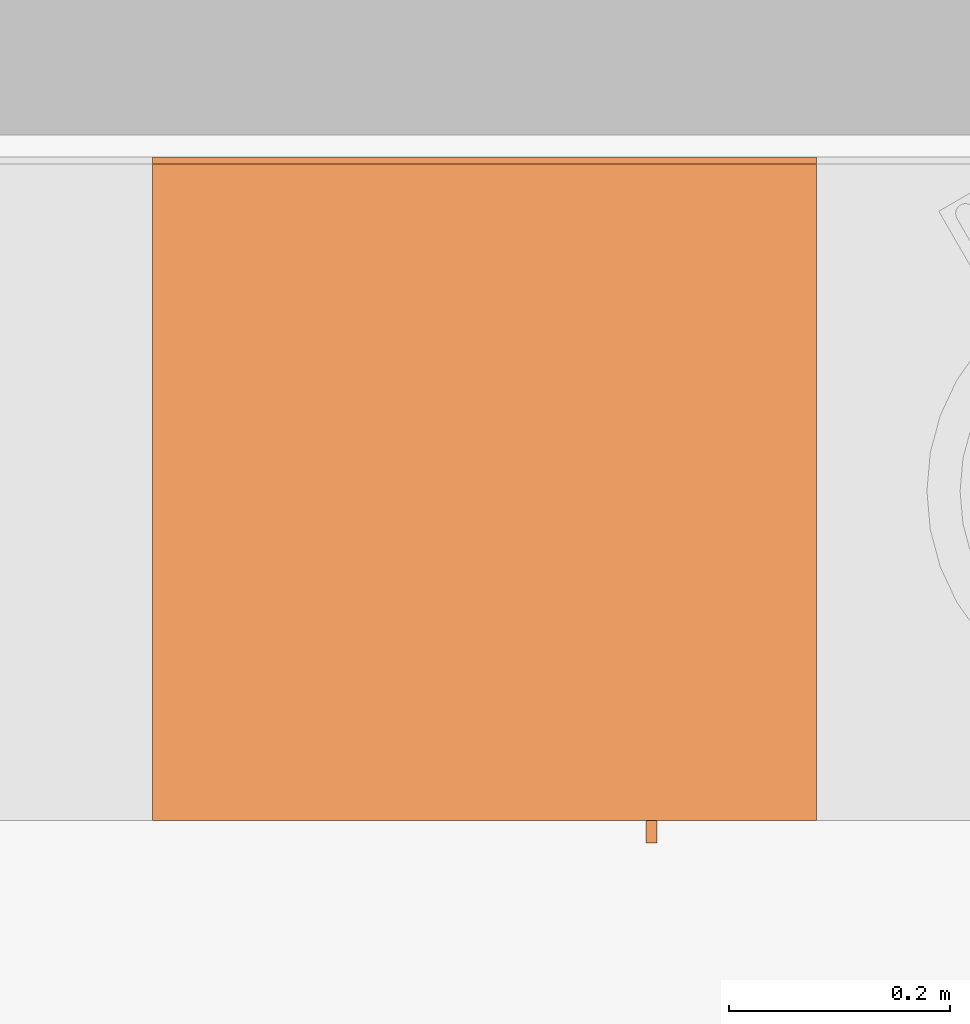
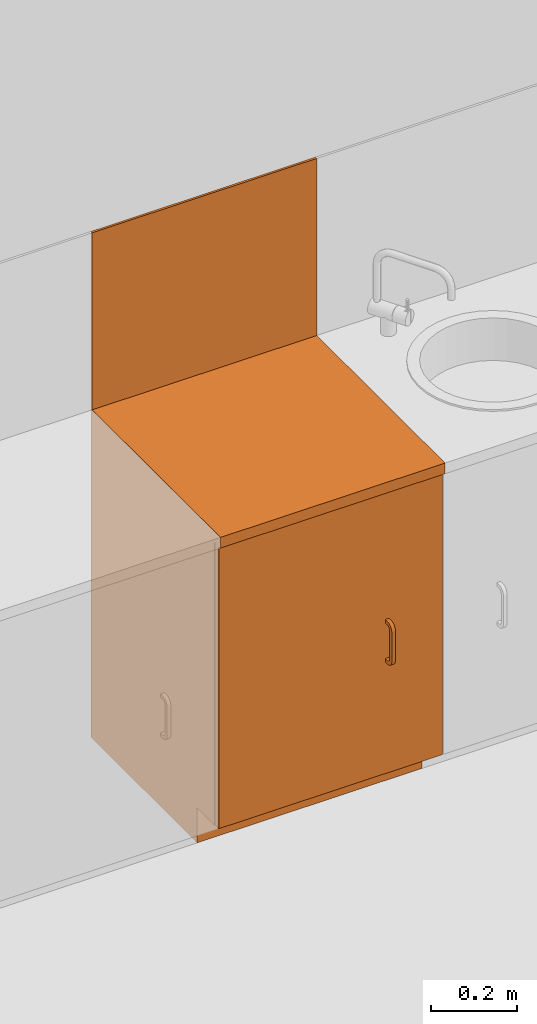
# One storey, part 344 of 347: 1 proxy.
"""IFC2X3 building model written with IfcOpenShell, lengths in millimetres."""

import ifcopenshell
import ifcopenshell.guid

model = None  # the IFC model being written
_history = None  # IfcOwnerHistory: only IFC2X3 demands one
_inside = {}  # id of a spatial element -> (the spatial element, [elements in it])
_under = {}  # id of a project, library or spatial element -> (it, [spatial elements below it])
_declared = {}  # id of a project -> (the project, [libraries it declares])
_typed = {}  # id of a type object -> (the type object, [elements of that type])
_made_of = {}  # id of a material, layer set ... -> (it, [elements and type objects made of it])


def new_model(schema):
    """Start an empty IFC model of exactly this schema.

    Asked for "IFC4X3", IfcOpenShell would pick the latest addendum, in which some entities
    have other attributes; the version numbers below select the first issue.
    IFC2X3 requires an IfcOwnerHistory on every rooted entity: one is made here for all.
    """
    global model, _history
    if schema == "IFC4X3":
        model = ifcopenshell.file(schema_version=(4, 3, 0, 0))
    else:
        model = ifcopenshell.file(schema=schema)
    _inside.clear()
    _under.clear()
    _declared.clear()
    _typed.clear()
    _made_of.clear()
    _history = None
    if model.schema == "IFC2X3":
        org = make("IfcOrganization", Name="unknown")
        user = make(
            "IfcPersonAndOrganization",
            ThePerson=make("IfcPerson", FamilyName="unknown"),
            TheOrganization=org,
        )
        app = make(
            "IfcApplication",
            ApplicationDeveloper=org,
            Version="unknown",
            ApplicationFullName="unknown",
            ApplicationIdentifier="unknown",
        )
        _history = make(
            "IfcOwnerHistory",
            OwningUser=user,
            OwningApplication=app,
            ChangeAction="ADDED",
            CreationDate=0,
        )
    return model


def make(cls, **values):
    """One entity of the class cls with the attributes given. An attribute that is None is left unset."""
    return model.create_entity(
        cls, **{name: value for name, value in values.items() if value is not None}
    )


def entity(cls, *values):
    """Any entity or typed value of the class cls, its attributes in the order of the schema. None: left unset."""
    e = model.create_entity(cls)
    for i, value in enumerate(values):
        if value is not None:
            e[i] = value
    return e


def rooted(cls, **values):
    """An entity with a GlobalId (a new one), such as an element, a storey or a relation."""
    return make(cls, GlobalId=ifcopenshell.guid.new(), OwnerHistory=_history, **values)


def si_unit(unit_type, name, prefix=None):
    """IfcSIUnit, for example si_unit("LENGTHUNIT", "METRE", prefix="MILLI")."""
    return make("IfcSIUnit", UnitType=unit_type, Prefix=prefix, Name=name)


def converted_unit(unit_type, name, factor, base, dimensions=None, offset=None):
    """IfcConversionBasedUnit, such as the inch: factor (a typed value) times the base unit."""
    return make(
        "IfcConversionBasedUnit"
        if offset is None
        else "IfcConversionBasedUnitWithOffset",
        ConversionOffset=offset,
        Dimensions=None
        if dimensions is None
        else entity("IfcDimensionalExponents", *dimensions),
        UnitType=unit_type,
        Name=name,
        ConversionFactor=make(
            "IfcMeasureWithUnit", ValueComponent=factor, UnitComponent=base
        ),
    )


def derived_unit(unit_type, elements):
    """IfcDerivedUnit: a product of units, each with its exponent."""
    return make(
        "IfcDerivedUnit",
        Elements=[
            make("IfcDerivedUnitElement", Unit=unit, Exponent=power)
            for unit, power in elements
        ],
        UnitType=unit_type,
    )


def money_unit(currency):
    """IfcMonetaryUnit."""
    return make("IfcMonetaryUnit", Currency=currency)


def assignment(units):
    """IfcUnitAssignment: the units of a project."""
    return None if units is None else make("IfcUnitAssignment", Units=units)


def point(xyz):
    """IfcCartesianPoint."""
    return None if xyz is None else make("IfcCartesianPoint", Coordinates=xyz)


def direction(xyz):
    """IfcDirection."""
    return None if xyz is None else make("IfcDirection", DirectionRatios=xyz)


def frame(location, z_axis=None, x_axis=None):
    """IfcAxis2Placement3D, a coordinate frame: its origin and axes. An axis left out is left unset."""
    return make(
        "IfcAxis2Placement3D",
        Location=point(location),
        Axis=direction(z_axis),
        RefDirection=direction(x_axis),
    )


def origin_with_axes():
    """The frame at (0, 0, 0) with the z axis (0, 0, 1) and the x axis (1, 0, 0) written out."""
    return frame((0.0, 0.0, 0.0), z_axis=(0.0, 0.0, 1.0), x_axis=(1.0, 0.0, 0.0))


def place(relative_to, where):
    """IfcLocalPlacement: puts the frame where relative to a parent placement (None: the world)."""
    return make(
        "IfcLocalPlacement", PlacementRelTo=relative_to, RelativePlacement=where
    )


def context(
    kind, dimensions, precision=None, world=None, true_north=None, identifier=None
):
    """IfcGeometricRepresentationContext, for example the 3D "Model" context."""
    return make(
        "IfcGeometricRepresentationContext",
        ContextIdentifier=identifier,
        ContextType=kind,
        CoordinateSpaceDimension=dimensions,
        Precision=precision,
        WorldCoordinateSystem=world,
        TrueNorth=true_north,
    )


def subcontext(parent, identifier, kind, view, scale=None):
    """IfcGeometricRepresentationSubContext, for example "Body" below "Model"."""
    return make(
        "IfcGeometricRepresentationSubContext",
        ContextIdentifier=identifier,
        ContextType=kind,
        ParentContext=parent,
        TargetScale=scale,
        TargetView=view,
    )


def project(units=None, contexts=None):
    """IfcProject with its units and contexts."""
    return rooted(
        "IfcProject",
        Name="project",
        RepresentationContexts=contexts,
        UnitsInContext=assignment(units),
    )


def spatial(cls, under=None, at=None, **own):
    """A site, building, storey or space (cls), placed at a placement, below another one or the project."""
    s = rooted(cls, ObjectPlacement=at, **own)
    if under is not None:
        _under.setdefault(under.id(), (under, []))[1].append(s)
    return s


def faces_of(points, faces, orient=None, outer=None):
    """IfcFace entities. A face is a list of loops; a loop is a list of indices into points, from 0.

    orient and outer hold one flag for each loop. By default every Orientation is true, the
    first loop of a face is its IfcFaceOuterBound and the others are IfcFaceBound.
    """
    made = []
    for i, loops in enumerate(faces):
        bounds = []
        for j, loop in enumerate(loops):
            is_outer = j == 0 if outer is None else outer[i][j]
            bounds.append(
                make(
                    "IfcFaceOuterBound" if is_outer else "IfcFaceBound",
                    Bound=make("IfcPolyLoop", Polygon=[points[k] for k in loop]),
                    Orientation=True if orient is None else orient[i][j],
                )
            )
        made.append(make("IfcFace", Bounds=bounds))
    return made


def faceted_brep(points, faces, orient=None, outer=None, voids=None):
    """IfcFacetedBrep: a solid bounded by flat faces; with voids (closed shells), ...WithVoids."""
    shared = [point(p) for p in points]
    hull = make("IfcClosedShell", CfsFaces=faces_of(shared, faces, orient, outer))
    if voids is None:
        return make("IfcFacetedBrep", Outer=hull)
    return make(
        "IfcFacetedBrepWithVoids",
        Outer=hull,
        Voids=[
            make(cls, CfsFaces=faces_of(shared, fs, o, b)) for cls, fs, o, b in voids
        ],
    )


def shape(context_of_items, identifier, shape_type, items):
    """IfcShapeRepresentation: the items that make up one representation, for example the "Body"."""
    return make(
        "IfcShapeRepresentation",
        ContextOfItems=context_of_items,
        RepresentationIdentifier=identifier,
        RepresentationType=shape_type,
        Items=items,
    )


def made_of(thing, what):
    """Note that an element or type object is made of a material, layer set ...; save() writes the relation."""
    if what is not None:
        _made_of.setdefault(what.id(), (what, []))[1].append(thing)
    return thing


def type_object(cls, material=None, **own):
    """A type object (cls), such as IfcWallType, which elements share."""
    return made_of(rooted(cls, **own), material)


def element(
    cls,
    number,
    at=None,
    inside=None,
    cuts=None,
    type_object=None,
    material=None,
    context=None,
    identifier="Body",
    shape_type=None,
    held_by="IfcProductDefinitionShape",
    body=None,
    shapes=None,
    **own,
):
    """One element of the class cls, such as IfcWall. Its Tag is "e" and its number.

    at: its placement. inside: the storey or other place that contains it. cuts: it is an
    opening in that element (IfcRelVoidsElement). A single representation is given by context,
    identifier, shape_type and body (its items); several are given by shapes. held_by: the class
    of the entity that holds the representations. save() writes the other relations.
    """
    e = rooted(cls, Tag="e%d" % number, ObjectPlacement=at, **own)
    if body is not None:
        shapes = [shape(context, identifier, shape_type, body)]
    if shapes is not None:
        e.Representation = make(held_by, Representations=shapes)
    if inside is not None:
        _inside.setdefault(inside.id(), (inside, []))[1].append(e)
    if cuts is not None:
        rooted(
            "IfcRelVoidsElement", RelatingBuildingElement=cuts, RelatedOpeningElement=e
        )
    if type_object is not None:
        _typed.setdefault(type_object.id(), (type_object, []))[1].append(e)
    return made_of(e, material)


def aggregate(whole, parts):
    """IfcRelAggregates: a whole, such as a stair, and the parts it consists of."""
    return rooted("IfcRelAggregates", RelatingObject=whole, RelatedObjects=parts)


def save(model, path):
    """Write the relations noted so far, then the file.

    IfcRelAggregates (storeys below a building ...), IfcRelContainedInSpatialStructure (elements
    in a storey), IfcRelDefinesByType, IfcRelAssociatesMaterial and IfcRelDeclares: one each for
    every whole, place, type object, material and project.
    """
    for whole, parts in _under.values():
        aggregate(whole, parts)
    for where, things in _inside.values():
        rooted(
            "IfcRelContainedInSpatialStructure",
            RelatedElements=things,
            RelatingStructure=where,
        )
    for kind, things in _typed.values():
        rooted("IfcRelDefinesByType", RelatedObjects=things, RelatingType=kind)
    for what, things in _made_of.values():
        rooted("IfcRelAssociatesMaterial", RelatedObjects=things, RelatingMaterial=what)
    for by, libraries in _declared.values():
        rooted("IfcRelDeclares", RelatingContext=by, RelatedDefinitions=libraries)
    model.write(path)


model = new_model("IFC2X3")

# Units and contexts
model_context = context("Model", 3, precision=0.01, world=origin_with_axes(), true_north=direction((0.0, 1.0)))
plan_context = context("Plan", 3, precision=0.01, world=origin_with_axes(), true_north=direction((0.0, 1.0)))
body_context = subcontext(model_context, "Body", "Model", "MODEL_VIEW")
ifc_project = project(units=[si_unit("LENGTHUNIT", "METRE", prefix="MILLI"), si_unit("AREAUNIT", "SQUARE_METRE"), si_unit("VOLUMEUNIT", "CUBIC_METRE"), converted_unit("PLANEANGLEUNIT", "DEGREE", entity("IfcPlaneAngleMeasure", 0.0174532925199), si_unit("PLANEANGLEUNIT", "RADIAN"), dimensions=[0, 0, 0, 0, 0, 0, 0]), money_unit("EUR"), converted_unit("TIMEUNIT", "Year", entity("IfcTimeMeasure", 31556926.0), si_unit("TIMEUNIT", "SECOND"), dimensions=[0, 0, 1, 0, 0, 0, 0]), si_unit("MASSUNIT", "GRAM", prefix="KILO"), si_unit("THERMODYNAMICTEMPERATUREUNIT", "DEGREE_CELSIUS"), si_unit("LUMINOUSINTENSITYUNIT", "LUMEN"), si_unit("ENERGYUNIT", "JOULE", prefix="MEGA"), derived_unit("THERMALCONDUCTANCEUNIT", [(si_unit("POWERUNIT", "WATT"), 1), (si_unit("LENGTHUNIT", "METRE"), -1), (si_unit("THERMODYNAMICTEMPERATUREUNIT", "KELVIN"), -1)]), derived_unit("SPECIFICHEATCAPACITYUNIT", [(si_unit("ENERGYUNIT", "JOULE"), 1), (si_unit("MASSUNIT", "GRAM", prefix="KILO"), -1), (si_unit("THERMODYNAMICTEMPERATUREUNIT", "KELVIN"), -1)]), derived_unit("MASSDENSITYUNIT", [(si_unit("MASSUNIT", "GRAM", prefix="KILO"), 1), (si_unit("VOLUMEUNIT", "CUBIC_METRE"), -1)])], contexts=[model_context, plan_context])

# Site, building, storey
site_placement = place(None, origin_with_axes())
site = spatial("IfcSite", under=ifc_project, at=site_placement, Name="Site", CompositionType="ELEMENT")
building_placement = place(site_placement, origin_with_axes())
building = spatial("IfcBuilding", under=site, at=building_placement, Name="Naam gebouw", CompositionType="ELEMENT")
storey_placement = place(building_placement, origin_with_axes())
storey = spatial("IfcBuildingStorey", under=building, at=storey_placement, Name="begane grond", CompositionType="ELEMENT", Elevation=0.0)

# Proxy
building_element_proxy_type = type_object("IfcBuildingElementProxyType", Name="Onderkast recht 25", PredefinedType="NOTDEFINED")
proxy_placement = place(storey_placement, frame((26375.0, 19967.5, 0.0), z_axis=(0.0, 0.0, 1.0), x_axis=(1.0, 0.0, 0.0)))
element("IfcBuildingElementProxy", 1, at=proxy_placement, inside=storey, type_object=building_element_proxy_type, Name="_73 pantryblok", context=body_context, shape_type="Brep", body=[
    faceted_brep([(600.0, -492.0, 2.0), (600.0, 0.0, 2.0), (600.0, 0.0, 100.0), (600.0, -492.0, 100.0), (0.0, 0.0, 2.0), (0.0, -492.0, 2.0), (0.0, 0.0, 100.0), (0.0, -492.0, 100.0)], [[[0, 1, 2, 3]], [[4, 1, 0, 5]], [[1, 4, 6, 2]], [[6, 7, 3, 2]], [[5, 0, 3, 7]], [[4, 5, 7, 6]]]),
    faceted_brep([(0.0, -600.0, 900.0), (600.0, -600.0, 900.0), (600.0, -600.0, 930.0), (0.0, -600.0, 930.0), (0.0, 0.0, 900.0), (600.0, 0.0, 900.0), (600.0, 0.0, 930.0), (0.0, 0.0, 930.0)], [[[0, 1, 2, 3]], [[0, 4, 5, 1]], [[1, 5, 6, 2]], [[3, 2, 6, 7]], [[4, 0, 3, 7]], [[5, 4, 7, 6]]]),
    faceted_brep([(600.0, 0.0, 930.0), (600.0, -6.0, 930.0), (0.0, -6.0, 930.0), (0.0, 0.0, 930.0), (600.0, 0.0, 1430.0), (600.0, -6.0, 1430.0), (0.0, -6.0, 1430.0), (0.0, 0.0, 1430.0)], [[[0, 1, 2, 3]], [[0, 4, 5, 1]], [[1, 5, 6, 2]], [[3, 2, 6, 7]], [[4, 0, 3, 7]], [[5, 4, 7, 6]]]),
    faceted_brep([(446.0, -590.0, 416.0), (446.0, -590.0, 426.0), (456.0, -590.0, 426.0), (456.0, -590.0, 416.0), (446.0, -600.0, 416.0), (446.0, -603.472963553, 416.30384494), (446.0, -606.840402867, 417.206147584), (446.0, -610.0, 418.679491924), (446.0, -612.855752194, 420.679111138), (446.0, -615.320888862, 423.144247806), (446.0, -617.320508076, 426.0), (446.0, -618.793852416, 429.159597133), (446.0, -619.69615506, 432.527036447), (446.0, -620.0, 436.0), (446.0, -620.0, 516.0), (446.0, -619.69615506, 519.472963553), (446.0, -618.793852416, 522.840402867), (446.0, -617.320508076, 526.0), (446.0, -615.320888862, 528.855752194), (446.0, -612.855752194, 531.320888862), (446.0, -610.0, 533.320508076), (446.0, -606.840402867, 534.793852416), (446.0, -603.472963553, 535.69615506), (446.0, -600.0, 536.0), (446.0, -590.0, 536.0), (446.0, -590.0, 526.0), (446.0, -600.0, 526.0), (446.0, -601.736481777, 525.84807753), (446.0, -603.420201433, 525.396926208), (446.0, -605.0, 524.660254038), (446.0, -606.427876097, 523.660444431), (446.0, -607.660444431, 522.427876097), (446.0, -608.660254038, 521.0), (446.0, -609.396926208, 519.420201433), (446.0, -609.84807753, 517.736481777), (446.0, -610.0, 516.0), (446.0, -610.0, 436.0), (446.0, -609.84807753, 434.263518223), (446.0, -609.396926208, 432.579798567), (446.0, -608.660254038, 431.0), (446.0, -607.660444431, 429.572123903), (446.0, -606.427876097, 428.339555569), (446.0, -605.0, 427.339745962), (446.0, -603.420201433, 426.603073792), (446.0, -601.736481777, 426.15192247), (446.0, -600.0, 426.0), (456.0, -600.0, 426.0), (456.0, -601.736481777, 426.15192247), (456.0, -603.420201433, 426.603073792), (456.0, -605.0, 427.339745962), (456.0, -606.427876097, 428.339555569), (456.0, -607.660444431, 429.572123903), (456.0, -608.660254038, 431.0), (456.0, -609.396926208, 432.579798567), (456.0, -609.84807753, 434.263518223), (456.0, -610.0, 436.0), (456.0, -610.0, 516.0), (456.0, -609.84807753, 517.736481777), (456.0, -609.396926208, 519.420201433), (456.0, -608.660254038, 521.0), (456.0, -607.660444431, 522.427876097), (456.0, -606.427876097, 523.660444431), (456.0, -605.0, 524.660254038), (456.0, -603.420201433, 525.396926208), (456.0, -601.736481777, 525.84807753), (456.0, -600.0, 526.0), (456.0, -590.0, 526.0), (456.0, -590.0, 536.0), (456.0, -600.0, 536.0), (456.0, -603.472963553, 535.69615506), (456.0, -606.840402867, 534.793852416), (456.0, -610.0, 533.320508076), (456.0, -612.855752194, 531.320888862), (456.0, -615.320888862, 528.855752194), (456.0, -617.320508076, 526.0), (456.0, -618.793852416, 522.840402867), (456.0, -619.69615506, 519.472963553), (456.0, -620.0, 516.0), (456.0, -620.0, 436.0), (456.0, -619.69615506, 432.527036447), (456.0, -618.793852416, 429.159597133), (456.0, -617.320508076, 426.0), (456.0, -615.320888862, 423.144247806), (456.0, -612.855752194, 420.679111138), (456.0, -610.0, 418.679491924), (456.0, -606.840402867, 417.206147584), (456.0, -603.472963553, 416.30384494), (456.0, -600.0, 416.0)], [[[0, 1, 2, 3]], [[0, 4, 5, 6, 7, 8, 9, 10, 11, 12, 13, 14, 15, 16, 17, 18, 19, 20, 21, 22, 23, 24, 25, 26, 27, 28, 29, 30, 31, 32, 33, 34, 35, 36, 37, 38, 39, 40, 41, 42, 43, 44, 45, 1]], [[1, 45, 46, 2]], [[3, 2, 46, 47, 48, 49, 50, 51, 52, 53, 54, 55, 56, 57, 58, 59, 60, 61, 62, 63, 64, 65, 66, 67, 68, 69, 70, 71, 72, 73, 74, 75, 76, 77, 78, 79, 80, 81, 82, 83, 84, 85, 86, 87]], [[4, 0, 3, 87]], [[5, 4, 87, 86]], [[6, 5, 86, 85]], [[7, 6, 85, 84]], [[8, 7, 84, 83]], [[9, 8, 83, 82]], [[10, 9, 82, 81]], [[11, 10, 81, 80]], [[12, 11, 80, 79]], [[13, 12, 79, 78]], [[14, 13, 78, 77]], [[15, 14, 77, 76]], [[16, 15, 76, 75]], [[17, 16, 75, 74]], [[18, 17, 74, 73]], [[19, 18, 73, 72]], [[20, 19, 72, 71]], [[21, 20, 71, 70]], [[22, 21, 70, 69]], [[23, 22, 69, 68]], [[24, 23, 68, 67]], [[25, 24, 67, 66]], [[26, 25, 66, 65]], [[27, 26, 65, 64]], [[28, 27, 64, 63]], [[29, 28, 63, 62]], [[30, 29, 62, 61]], [[31, 30, 61, 60]], [[32, 31, 60, 59]], [[33, 32, 59, 58]], [[34, 33, 58, 57]], [[35, 34, 57, 56]], [[36, 35, 56, 55]], [[37, 36, 55, 54]], [[38, 37, 54, 53]], [[39, 38, 53, 52]], [[40, 39, 52, 51]], [[41, 40, 51, 50]], [[42, 41, 50, 49]], [[43, 42, 49, 48]], [[44, 43, 48, 47]], [[45, 44, 47, 46]]]),
    faceted_brep([(1.0, -572.0, 101.0), (599.0, -572.0, 101.0), (599.0, -590.0, 101.0), (1.0, -590.0, 101.0), (1.0, -572.0, 899.0), (599.0, -572.0, 899.0), (599.0, -590.0, 899.0), (1.0, -590.0, 899.0)], [[[0, 1, 2, 3]], [[0, 4, 5, 1]], [[1, 5, 6, 2]], [[3, 2, 6, 7]], [[4, 0, 3, 7]], [[5, 4, 7, 6]]]),
    faceted_brep([(18.0, -572.0, 100.0), (582.0, -572.0, 100.0), (582.0, -572.0, 118.0), (18.0, -572.0, 118.0), (18.0, 0.0, 100.0), (582.0, 0.0, 100.0), (582.0, 0.0, 118.0), (18.0, 0.0, 118.0)], [[[0, 1, 2, 3]], [[0, 4, 5, 1]], [[1, 5, 6, 2]], [[3, 2, 6, 7]], [[4, 0, 3, 7]], [[5, 4, 7, 6]]]),
    faceted_brep([(18.0, -572.0, 882.0), (18.0, -512.0, 882.0), (582.0, -512.0, 882.0), (582.0, -572.0, 882.0), (18.0, -572.0, 900.0), (18.0, -512.0, 900.0), (582.0, -512.0, 900.0), (582.0, -572.0, 900.0)], [[[0, 1, 2, 3]], [[0, 4, 5, 1]], [[1, 5, 6, 2]], [[3, 2, 6, 7]], [[4, 0, 3, 7]], [[5, 4, 7, 6]]]),
    faceted_brep([(582.0, 0.0, 882.0), (582.0, -60.0, 882.0), (18.0, -60.0, 882.0), (18.0, 0.0, 882.0), (582.0, 0.0, 900.0), (582.0, -60.0, 900.0), (18.0, -60.0, 900.0), (18.0, 0.0, 900.0)], [[[0, 1, 2, 3]], [[0, 4, 5, 1]], [[1, 5, 6, 2]], [[3, 2, 6, 7]], [[4, 0, 3, 7]], [[5, 4, 7, 6]]]),
    faceted_brep([(0.0, 0.0, 100.0), (0.0, -572.0, 100.0), (0.0, -572.0, 900.0), (0.0, 0.0, 900.0), (18.0, 0.0, 100.0), (18.0, -572.0, 100.0), (18.0, -572.0, 900.0), (18.0, 0.0, 900.0)], [[[0, 1, 2, 3]], [[0, 4, 5, 1]], [[1, 5, 6, 2]], [[3, 2, 6, 7]], [[4, 0, 3, 7]], [[5, 4, 7, 6]]]),
    faceted_brep([(600.0, -572.0, 100.0), (600.0, 0.0, 100.0), (600.0, 0.0, 900.0), (600.0, -572.0, 900.0), (582.0, -572.0, 100.0), (582.0, 0.0, 100.0), (582.0, 0.0, 900.0), (582.0, -572.0, 900.0)], [[[0, 1, 2, 3]], [[0, 4, 5, 1]], [[1, 5, 6, 2]], [[3, 2, 6, 7]], [[4, 0, 3, 7]], [[5, 4, 7, 6]]]),
    faceted_brep([(582.0, -9.0, 118.0), (18.0, -9.0, 118.0), (18.0, -9.0, 882.0), (582.0, -9.0, 882.0), (582.0, -18.0, 118.0), (18.0, -18.0, 118.0), (18.0, -18.0, 882.0), (582.0, -18.0, 882.0)], [[[0, 1, 2, 3]], [[0, 4, 5, 1]], [[1, 5, 6, 2]], [[3, 2, 6, 7]], [[4, 0, 3, 7]], [[5, 4, 7, 6]]]),
])

save(model, "model.ifc")
